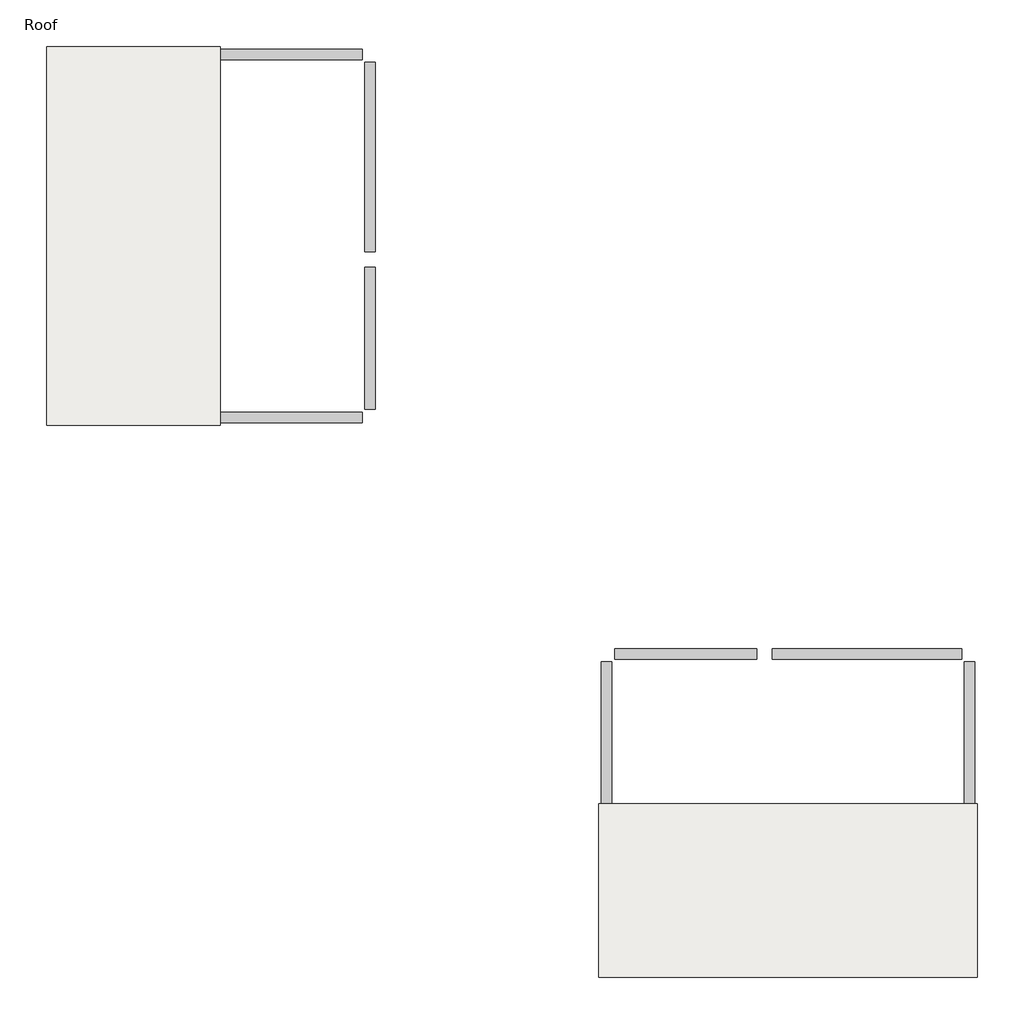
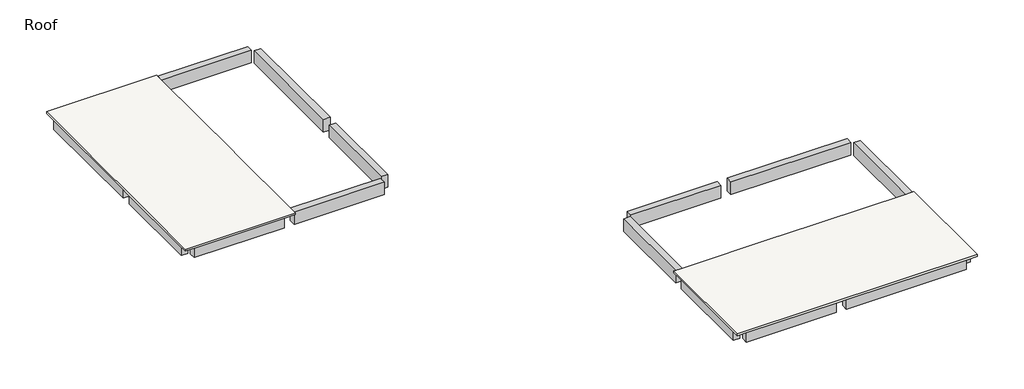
# One storey: 16 beams, 2 slabs.
"""IFC4 building model written with IfcOpenShell, lengths in millimetres."""

from ifc_helpers import new_model, si_unit, frame, origin, place, context, project, spatial, polyline, outline, extrude, faceted_brep, element, save

model = new_model("IFC4")

# Units and contexts
model_context = context("Model", 3, world=origin())
ifc_project = project(units=[si_unit("LENGTHUNIT", "METRE", prefix="MILLI")], contexts=[model_context])

# Site, building, storey
site = spatial("IfcSite", under=ifc_project)
building = spatial("IfcBuilding", under=site)
storey = spatial("IfcBuildingStorey", under=building, Name="Roof", Elevation=7315.2)

# Beams
placement = place(None, origin())
element("IfcBeam", 1, ObjectType="Concrete-Rectangular Beam : 16 x 32", at=placement, inside=storey, context=model_context, shape_type="SweptSolid", body=[
    extrude(outline(polyline([(-40542.2783408, 12223.8963551), (-40542.2783408, 12630.2963551), (-35055.8783408, 12630.2963551), (-35055.8783408, 12223.8963551), (-40542.2783408, 12223.8963551)])), frame((0.0, 0.0, 6502.4), z_axis=(0.0, 0.0, 1.0), x_axis=(1.0, 0.0, 0.0)), (0.0, 0.0, 1.0), 692.15),
])
element("IfcBeam", 2, ObjectType="Concrete-Rectangular Beam : 16 x 32", at=placement, inside=storey, context=model_context, shape_type="SweptSolid", body=[
    extrude(outline(polyline([(-34446.2783408, 12223.8963551), (-34446.2783408, 12630.2963551), (-28959.8783408, 12630.2963551), (-28959.8783408, 12223.8963551), (-34446.2783408, 12223.8963551)])), frame((0.0, 0.0, 6502.4), z_axis=(0.0, 0.0, 1.0), x_axis=(1.0, 0.0, 0.0)), (0.0, 0.0, 1.0), 812.8),
])
element("IfcBeam", 3, ObjectType="Concrete-Rectangular Beam : 16 x 32", at=placement, inside=storey, context=model_context, shape_type="SweptSolid", body=[
    extrude(outline(polyline([(-28451.8783408, 4807.0963551), (-28858.2783408, 4807.0963551), (-28858.2783408, 12122.2963551), (-28451.8783408, 12122.2963551), (-28451.8783408, 4807.0963551)])), frame((0.0, 0.0, 6502.4), z_axis=(0.0, 0.0, 1.0), x_axis=(1.0, 0.0, 0.0)), (0.0, 0.0, 1.0), 812.8),
])
element("IfcBeam", 4, ObjectType="Concrete-Rectangular Beam : 16 x 32", at=placement, inside=storey, context=model_context, shape_type="SweptSolid", body=[
    extrude(outline(polyline([(-28858.2783408, 4197.4963551), (-28451.8783408, 4197.4963551), (-28451.8783408, -1288.9036449), (-28858.2783408, -1288.9036449), (-28858.2783408, 4197.4963551)])), frame((0.0, 0.0, 6502.4), z_axis=(0.0, 0.0, 1.0), x_axis=(1.0, 0.0, 0.0)), (0.0, 0.0, 1.0), 812.8),
])
element("IfcBeam", 5, ObjectType="Concrete-Rectangular Beam : 16 x 32", at=placement, inside=storey, context=model_context, shape_type="SweptSolid", body=[
    extrude(outline(polyline([(-34446.2783408, -1796.9036449), (-34446.2783408, -1390.5036449), (-28959.8783408, -1390.5036449), (-28959.8783408, -1796.9036449), (-34446.2783408, -1796.9036449)])), frame((0.0, 0.0, 6502.4), z_axis=(0.0, 0.0, 1.0), x_axis=(1.0, 0.0, 0.0)), (0.0, 0.0, 1.0), 812.8),
])
element("IfcBeam", 6, ObjectType="Concrete-Rectangular Beam : 16 x 32", at=placement, inside=storey, context=model_context, shape_type="SweptSolid", body=[
    extrude(outline(polyline([(-35055.8783408, -1390.5036449), (-35055.8783408, -1796.9036449), (-40542.2783408, -1796.9036449), (-40542.2783408, -1390.5036449), (-35055.8783408, -1390.5036449)])), frame((0.0, 0.0, 6502.4), z_axis=(0.0, 0.0, 1.0), x_axis=(1.0, 0.0, 0.0)), (0.0, 0.0, 1.0), 692.15),
])
element("IfcBeam", 7, ObjectType="Concrete-Rectangular Beam : 16 x 32", at=placement, inside=storey, context=model_context, shape_type="SweptSolid", body=[
    extrude(outline(polyline([(-40643.8783408, -1288.9036449), (-41050.2783408, -1288.9036449), (-41050.2783408, 4197.4963551), (-40643.8783408, 4197.4963551), (-40643.8783408, -1288.9036449)])), frame((0.0, 0.0, 6502.4), z_axis=(0.0, 0.0, 1.0), x_axis=(1.0, 0.0, 0.0)), (0.0, 0.0, 1.0), 692.15),
])
element("IfcBeam", 8, ObjectType="Concrete-Rectangular Beam : 16 x 32", at=placement, inside=storey, context=model_context, shape_type="SweptSolid", body=[
    extrude(outline(polyline([(-40643.8783408, 4807.0963551), (-41050.2783408, 4807.0963551), (-41050.2783408, 12122.2963551), (-40643.8783408, 12122.2963551), (-40643.8783408, 4807.0963551)])), frame((0.0, 0.0, 6502.4), z_axis=(0.0, 0.0, 1.0), x_axis=(1.0, 0.0, 0.0)), (0.0, 0.0, 1.0), 692.15),
])
element("IfcBeam", 9, ObjectType="Concrete-Rectangular Beam : 16 x 32", at=placement, inside=storey, context=model_context, shape_type="SweptSolid", body=[
    extrude(outline(polyline([(-5287.0783408, -22624.9036449), (-5693.4783408, -22624.9036449), (-5693.4783408, -17138.5036449), (-5287.0783408, -17138.5036449), (-5287.0783408, -22624.9036449)])), frame((0.0, 0.0, 6502.4), z_axis=(0.0, 0.0, 1.0), x_axis=(1.0, 0.0, 0.0)), (0.0, 0.0, 1.0), 692.15),
])
element("IfcBeam", 10, ObjectType="Concrete-Rectangular Beam : 16 x 32", at=placement, inside=storey, context=model_context, shape_type="SweptSolid", body=[
    extrude(outline(polyline([(-5287.0783408, -16528.9036449), (-5693.4783408, -16528.9036449), (-5693.4783408, -11042.5036449), (-5287.0783408, -11042.5036449), (-5287.0783408, -16528.9036449)])), frame((0.0, 0.0, 6502.4), z_axis=(0.0, 0.0, 1.0), x_axis=(1.0, 0.0, 0.0)), (0.0, 0.0, 1.0), 812.8),
])
element("IfcBeam", 11, ObjectType="Concrete-Rectangular Beam : 16 x 32", at=placement, inside=storey, context=model_context, shape_type="SweptSolid", body=[
    extrude(outline(polyline([(-13110.2783408, -10940.9036449), (-13110.2783408, -10534.5036449), (-5795.0783408, -10534.5036449), (-5795.0783408, -10940.9036449), (-13110.2783408, -10940.9036449)])), frame((0.0, 0.0, 6502.4), z_axis=(0.0, 0.0, 1.0), x_axis=(1.0, 0.0, 0.0)), (0.0, 0.0, 1.0), 812.8),
])
element("IfcBeam", 12, ObjectType="Concrete-Rectangular Beam : 16 x 32", at=placement, inside=storey, context=model_context, shape_type="SweptSolid", body=[
    extrude(outline(polyline([(-13719.8783408, -10534.5036449), (-13719.8783408, -10940.9036449), (-19206.2783408, -10940.9036449), (-19206.2783408, -10534.5036449), (-13719.8783408, -10534.5036449)])), frame((0.0, 0.0, 6502.4), z_axis=(0.0, 0.0, 1.0), x_axis=(1.0, 0.0, 0.0)), (0.0, 0.0, 1.0), 812.8),
])
element("IfcBeam", 13, ObjectType="Concrete-Rectangular Beam : 16 x 32", at=placement, inside=storey, context=model_context, shape_type="SweptSolid", body=[
    extrude(outline(polyline([(-19307.8783408, -16528.9036449), (-19714.2783408, -16528.9036449), (-19714.2783408, -11042.5036449), (-19307.8783408, -11042.5036449), (-19307.8783408, -16528.9036449)])), frame((0.0, 0.0, 6502.4), z_axis=(0.0, 0.0, 1.0), x_axis=(1.0, 0.0, 0.0)), (0.0, 0.0, 1.0), 812.8),
])
element("IfcBeam", 14, ObjectType="Concrete-Rectangular Beam : 16 x 32", at=placement, inside=storey, context=model_context, shape_type="SweptSolid", body=[
    extrude(outline(polyline([(-19714.2783408, -17138.5036449), (-19307.8783408, -17138.5036449), (-19307.8783408, -22624.9036449), (-19714.2783408, -22624.9036449), (-19714.2783408, -17138.5036449)])), frame((0.0, 0.0, 6502.4), z_axis=(0.0, 0.0, 1.0), x_axis=(1.0, 0.0, 0.0)), (0.0, 0.0, 1.0), 692.15),
])
element("IfcBeam", 15, ObjectType="Concrete-Rectangular Beam : 16 x 32", at=placement, inside=storey, context=model_context, shape_type="SweptSolid", body=[
    extrude(outline(polyline([(-19206.2783408, -23132.9036449), (-19206.2783408, -22726.5036449), (-13719.8783408, -22726.5036449), (-13719.8783408, -23132.9036449), (-19206.2783408, -23132.9036449)])), frame((0.0, 0.0, 6502.4), z_axis=(0.0, 0.0, 1.0), x_axis=(1.0, 0.0, 0.0)), (0.0, 0.0, 1.0), 692.15),
])
element("IfcBeam", 16, ObjectType="Concrete-Rectangular Beam : 16 x 32", at=placement, inside=storey, context=model_context, shape_type="SweptSolid", body=[
    extrude(outline(polyline([(-13110.2783408, -23132.9036449), (-13110.2783408, -22726.5036449), (-5795.0783408, -22726.5036449), (-5795.0783408, -23132.9036449), (-13110.2783408, -23132.9036449)])), frame((0.0, 0.0, 6502.4), z_axis=(0.0, 0.0, 1.0), x_axis=(1.0, 0.0, 0.0)), (0.0, 0.0, 1.0), 692.15),
])

# Slabs
element("IfcSlab", 17, ObjectType="LW Concrete on Metal Deck", at=placement, inside=storey, context=model_context, shape_type="Brep", body=[
    faceted_brep([(-34446.2783408, 12731.8963551, 7194.55), (-34446.2783408, 12122.2963551, 7194.55), (-34446.2783408, 4807.0963551, 7194.55), (-34446.2783408, 4197.4963551, 7194.55), (-34446.2783408, -1288.9036449, 7194.55), (-34446.2783408, -1898.5036449, 7194.55), (-35055.8783408, -1898.5036449, 7194.55), (-40542.2783408, -1898.5036449, 7194.55), (-41151.8783408, -1898.5036449, 7194.55), (-41151.8783408, -1288.9036449, 7194.55), (-41151.8783408, 4197.4963551, 7194.55), (-41151.8783408, 4807.0963551, 7194.55), (-41151.8783408, 12122.2963551, 7194.55), (-41151.8783408, 12731.8963551, 7194.55), (-40542.2783408, 12731.8963551, 7194.55), (-35055.8783408, 12731.8963551, 7194.55), (-34446.2783408, 12731.8963551, 7315.2), (-41151.8783408, 12731.8963551, 7315.2), (-41151.8783408, -1898.5036449, 7315.2), (-34446.2783408, -1898.5036449, 7315.2), (-34446.2783408, -1796.9036449, 7315.2), (-34446.2783408, -1390.5036449, 7315.2), (-34446.2783408, 4349.8963551, 7315.2), (-34446.2783408, 4654.6963551, 7315.2), (-34446.2783408, 12223.8963551, 7315.2), (-34446.2783408, 12630.2963551, 7315.2)], [[[0, 1, 2, 3, 4, 5, 6, 7, 8, 9, 10, 11, 12, 13, 14, 15]], [[16, 17, 18, 19, 20, 21, 22, 23, 24, 25]], [[5, 4, 3, 2, 1, 0, 16, 25, 24, 23, 22, 21, 20, 19]], [[8, 7, 6, 5, 19, 18]], [[13, 12, 11, 10, 9, 8, 18, 17]], [[0, 15, 14, 13, 17, 16]]]),
])
element("IfcSlab", 18, ObjectType="LW Concrete on Metal Deck", at=placement, inside=storey, context=model_context, shape_type="Brep", body=[
    faceted_brep([(-5185.4783408, -16528.9036449, 7194.55), (-5185.4783408, -17138.5036449, 7194.55), (-5185.4783408, -22624.9036449, 7194.55), (-5185.4783408, -23234.5036449, 7194.55), (-5795.0783408, -23234.5036449, 7194.55), (-13110.2783408, -23234.5036449, 7194.55), (-13719.8783408, -23234.5036449, 7194.55), (-19206.2783408, -23234.5036449, 7194.55), (-19815.8783408, -23234.5036449, 7194.55), (-19815.8783408, -22624.9036449, 7194.55), (-19815.8783408, -17138.5036449, 7194.55), (-19815.8783408, -16528.9036449, 7194.55), (-19206.2783408, -16528.9036449, 7194.55), (-13719.8783408, -16528.9036449, 7194.55), (-13110.2783408, -16528.9036449, 7194.55), (-5795.0783408, -16528.9036449, 7194.55), (-5185.4783408, -16528.9036449, 7315.2), (-5287.0783408, -16528.9036449, 7315.2), (-5693.4783408, -16528.9036449, 7315.2), (-13262.6783408, -16528.9036449, 7315.2), (-13567.4783408, -16528.9036449, 7315.2), (-19307.8783408, -16528.9036449, 7315.2), (-19714.2783408, -16528.9036449, 7315.2), (-19815.8783408, -16528.9036449, 7315.2), (-19815.8783408, -23234.5036449, 7315.2), (-5185.4783408, -23234.5036449, 7315.2)], [[[0, 1, 2, 3, 4, 5, 6, 7, 8, 9, 10, 11, 12, 13, 14, 15]], [[16, 17, 18, 19, 20, 21, 22, 23, 24, 25]], [[0, 15, 14, 13, 12, 11, 23, 22, 21, 20, 19, 18, 17, 16]], [[11, 10, 9, 8, 24, 23]], [[8, 7, 6, 5, 4, 3, 25, 24]], [[3, 2, 1, 0, 16, 25]]]),
])

save(model, "model.ifc")
